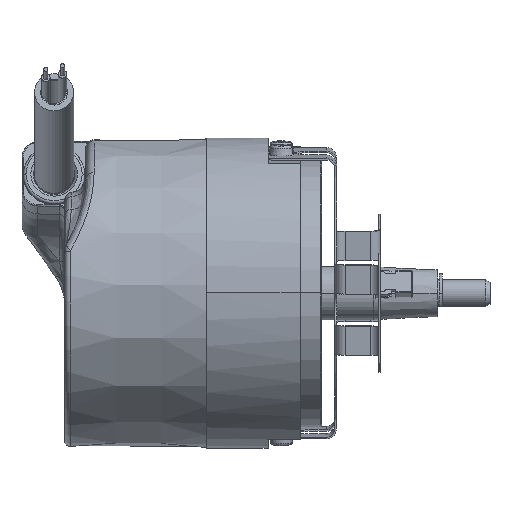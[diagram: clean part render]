
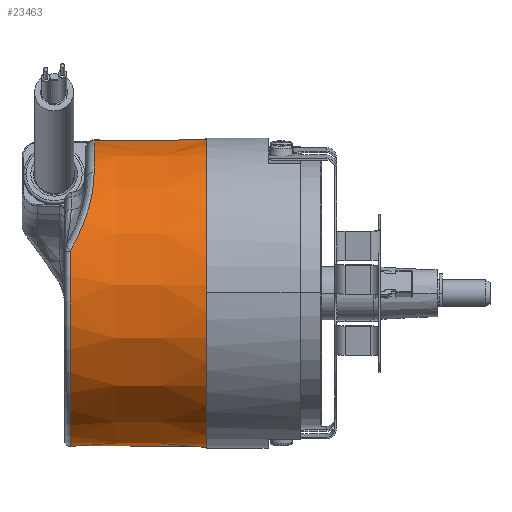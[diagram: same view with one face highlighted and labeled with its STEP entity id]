
A CAD part, top view. The second image highlights one B-rep face of the part: STEP entity #23463.
In plain terms, the highlighted conical face has half-angle 0.5 degrees and reference radius 29 mm.
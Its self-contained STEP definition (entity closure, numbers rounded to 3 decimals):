
#3151 = DIRECTION ( 'NONE',  ( 0., -0.993, -0.122 ) ) ;
#3152 = DIRECTION ( 'NONE',  ( 1., 0., 0. ) ) ;
#3153 = CARTESIAN_POINT ( 'NONE',  ( 7.5, 0., 0. ) ) ;
#3154 = AXIS2_PLACEMENT_3D ( 'NONE', #3153, #3152, #3151 ) ;
#3160 = CIRCLE ( 'NONE', #3154, 28.9 ) ;
#3542 = FACE_OUTER_BOUND ( 'NONE', #23464, .T. ) ;
#3555 = CARTESIAN_POINT ( 'NONE',  ( -14.016, 17.9, 22.453 ) ) ;
#3556 = CARTESIAN_POINT ( 'NONE',  ( -13.955, 18.204, 22.207 ) ) ;
#3557 = CARTESIAN_POINT ( 'NONE',  ( -13.846, 18.801, 21.705 ) ) ;
#3558 = CARTESIAN_POINT ( 'NONE',  ( -13.798, 19.095, 21.448 ) ) ;
#3559 = CARTESIAN_POINT ( 'NONE',  ( -13.587, 20.534, 20.134 ) ) ;
#3560 = CARTESIAN_POINT ( 'NONE',  ( -13.513, 21.6, 18.988 ) ) ;
#3561 = CARTESIAN_POINT ( 'NONE',  ( -13.513, 22.576, 17.747 ) ) ;
#3564 = B_SPLINE_CURVE_WITH_KNOTS ( 'NONE', 3,
 ( #3561, #3560, #3559, #3558, #3557, #3556, #3555, #3617, #3616, #3615, #3614, #3613, #3612, #3611, #3610, #3609 ),
 .UNSPECIFIED., .F., .F.,
 ( 4, 2, 2, 2, 2, 2, 2, 4 ),
 ( 0., 0.005, 0.006, 0.007, 0.009, 0.014, 0.016, 0.019 ),
 .UNSPECIFIED. ) ;
#3575 = DIRECTION ( 'NONE',  ( 0., -0.993, -0.122 ) ) ;
#3576 = DIRECTION ( 'NONE',  ( 1., 0., 0. ) ) ;
#3577 = CARTESIAN_POINT ( 'NONE',  ( 19., 0., 0. ) ) ;
#3578 = AXIS2_PLACEMENT_3D ( 'NONE', #3577, #3576, #3575 ) ;
#3579 = CONICAL_SURFACE ( 'NONE', #3578, 29., 0.009 ) ;
#3609 = CARTESIAN_POINT ( 'NONE',  ( -18.009, 7.822, 27.59 ) ) ;
#3610 = CARTESIAN_POINT ( 'NONE',  ( -17.619, 8.483, 27.406 ) ) ;
#3611 = CARTESIAN_POINT ( 'NONE',  ( -17.253, 9.148, 27.195 ) ) ;
#3612 = CARTESIAN_POINT ( 'NONE',  ( -16.572, 10.484, 26.715 ) ) ;
#3613 = CARTESIAN_POINT ( 'NONE',  ( -16.255, 11.157, 26.444 ) ) ;
#3614 = CARTESIAN_POINT ( 'NONE',  ( -15.389, 13.156, 25.549 ) ) ;
#3615 = CARTESIAN_POINT ( 'NONE',  ( -14.923, 14.459, 24.842 ) ) ;
#3616 = CARTESIAN_POINT ( 'NONE',  ( -14.374, 16.358, 23.605 ) ) ;
#3617 = CARTESIAN_POINT ( 'NONE',  ( -14.216, 16.981, 23.163 ) ) ;
#13311 = CARTESIAN_POINT ( 'NONE',  ( -13.513, 22.576, 17.747 ) ) ;
#13312 = CARTESIAN_POINT ( 'NONE',  ( -13.513, 28.502, 3.5 ) ) ;
#13313 = DIRECTION ( 'NONE',  ( 0., -0.993, -0.122 ) ) ;
#13315 = DIRECTION ( 'NONE',  ( 1., 0., 0. ) ) ;
#13316 = CARTESIAN_POINT ( 'NONE',  ( -13.513, 0., 0. ) ) ;
#13317 = AXIS2_PLACEMENT_3D ( 'NONE', #13316, #13315, #13313 ) ;
#13322 = CIRCLE ( 'NONE', #13317, 28.716 ) ;
#13808 = CARTESIAN_POINT ( 'NONE',  ( -18.009, -28.463, -3.495 ) ) ;
#13809 = DIRECTION ( 'NONE',  ( 1., -0.009, -0.001 ) ) ;
#13810 = VECTOR ( 'NONE', #13809, 1000. ) ;
#13811 = CARTESIAN_POINT ( 'NONE',  ( 19., -28.784, -3.534 ) ) ;
#13812 = LINE ( 'NONE', #13811, #13810 ) ;
#13813 = CARTESIAN_POINT ( 'NONE',  ( 7.5, -28.684, -3.522 ) ) ;
#13819 = CARTESIAN_POINT ( 'NONE',  ( 7.5, 28.684, 3.522 ) ) ;
#13820 = DIRECTION ( 'NONE',  ( 1., 0.009, 0.001 ) ) ;
#13821 = VECTOR ( 'NONE', #13820, 1000. ) ;
#13822 = CARTESIAN_POINT ( 'NONE',  ( 19., 28.784, 3.534 ) ) ;
#13823 = LINE ( 'NONE', #13822, #13821 ) ;
#13862 = DIRECTION ( 'NONE',  ( 0., 0.993, 0.122 ) ) ;
#13863 = DIRECTION ( 'NONE',  ( 1., 0., 0. ) ) ;
#13864 = AXIS2_PLACEMENT_3D ( 'NONE', #13871, #13863, #13862 ) ;
#13865 = CIRCLE ( 'NONE', #13864, 28.677 ) ;
#13871 = CARTESIAN_POINT ( 'NONE',  ( -18.009, 0., 0. ) ) ;
#13914 = CARTESIAN_POINT ( 'NONE',  ( -18.009, 7.822, 27.59 ) ) ;
#18928 = EDGE_CURVE ( 'NONE', #18929, #18930, #13322, .T. ) ;
#18929 = VERTEX_POINT ( 'NONE', #13312 ) ;
#18930 = VERTEX_POINT ( 'NONE', #13311 ) ;
#19080 = EDGE_CURVE ( 'NONE', #18929, #19081, #13823, .T. ) ;
#19081 = VERTEX_POINT ( 'NONE', #13819 ) ;
#19084 = VERTEX_POINT ( 'NONE', #13813 ) ;
#19086 = EDGE_CURVE ( 'NONE', #19087, #19084, #13812, .T. ) ;
#19087 = VERTEX_POINT ( 'NONE', #13808 ) ;
#19103 = EDGE_CURVE ( 'NONE', #19104, #19087, #13865, .T. ) ;
#19104 = VERTEX_POINT ( 'NONE', #13914 ) ;
#23394 = ORIENTED_EDGE ( 'NONE', *, *, #19086, .T. ) ;
#23395 = ORIENTED_EDGE ( 'NONE', *, *, #23398, .F. ) ;
#23398 = EDGE_CURVE ( 'NONE', #19081, #19084, #3160, .T. ) ;
#23463 = ADVANCED_FACE ( 'NONE', ( #3542 ), #3579, .T. ) ;
#23464 = EDGE_LOOP ( 'NONE', ( #23465, #23466, #23467, #23472, #23394, #23395 ) ) ;
#23465 = ORIENTED_EDGE ( 'NONE', *, *, #19080, .F. ) ;
#23466 = ORIENTED_EDGE ( 'NONE', *, *, #18928, .T. ) ;
#23467 = ORIENTED_EDGE ( 'NONE', *, *, #23471, .T. ) ;
#23471 = EDGE_CURVE ( 'NONE', #18930, #19104, #3564, .T. ) ;
#23472 = ORIENTED_EDGE ( 'NONE', *, *, #19103, .T. ) ;
